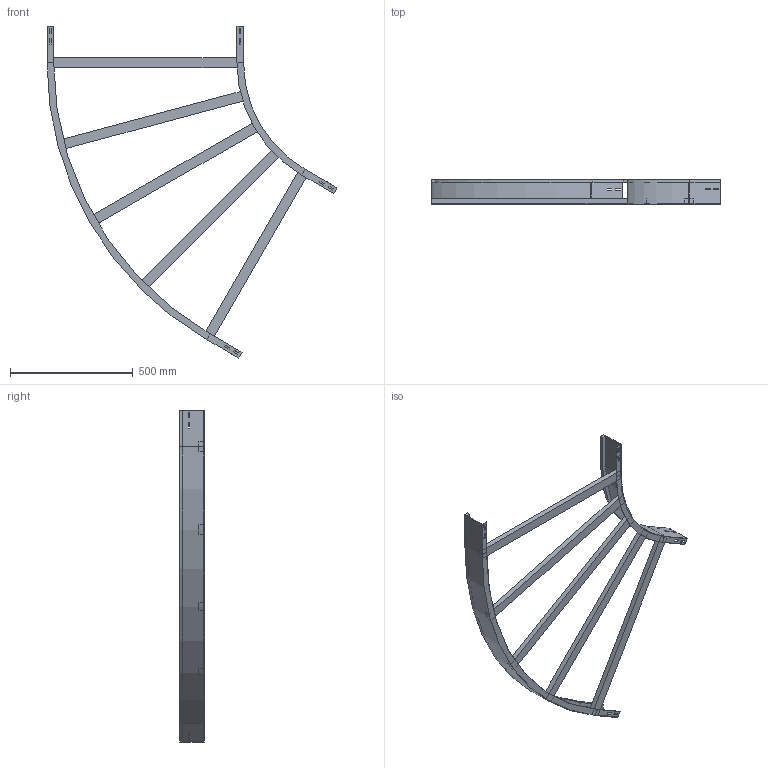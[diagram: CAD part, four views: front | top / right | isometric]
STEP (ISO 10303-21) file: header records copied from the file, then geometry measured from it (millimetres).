
FILE_DESCRIPTION (( 'STEP AP214' ), '1' );
FILE_NAME ('13B5D800.step', '2025-02-21T15:17:26', ( '' ), ( '' ), 'SwSTEP 2.0', 'SolidWorks 2023', '' );
FILE_SCHEMA (( 'AUTOMOTIVE_DESIGN' ));
Length unit declared in the file: millimetre
Products named in the file (4): A2_LONGH.ESTERNO 60°_H100_R500+800; 13B5D800; A2_LONGH.INTERNO 60°_H100_R500; TRAVERSINO_800
Assembly tree (7 placements, depth 2):
  13B5D800
    A2_LONGH.INTERNO 60°_H100_R500
    A2_LONGH.ESTERNO 60°_H100_R500+800
    TRAVERSINO_800  x5
Bounding box: 1179.9 x 100 x 1350.83 mm (x, y, z)
Volume: 4317222.4 mm3; surface area: 1199073.3 mm2
Topology: 7 solids, 7 shells, 146 faces, 364 edges, 232 vertices
Faces by surface type: plane 138, cylinder 8
Entity records: 3837 total; most frequent: CARTESIAN_POINT 648, ORIENTED_EDGE 632, DIRECTION 596, EDGE_CURVE 316, VECTOR 300, LINE 300, VERTEX_POINT 200, EDGE_LOOP 154
